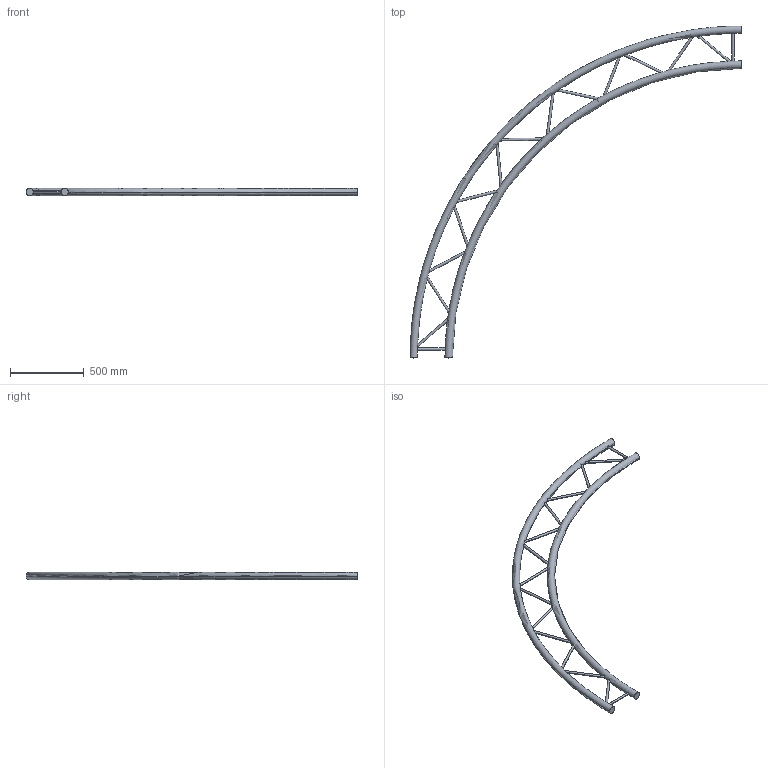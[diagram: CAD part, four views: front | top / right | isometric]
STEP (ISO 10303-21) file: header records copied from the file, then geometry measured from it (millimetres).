
FILE_DESCRIPTION (( 'STEP AP203' ), '1' );
FILE_NAME ('EXC29450H.STEP', '2009-10-26T09:35:31', ( 'CEDIA' ), ( 'CEDIA INDUSTRIE' ), 'SwSTEP 2.0', 'SolidWorks 2009', '' );
FILE_SCHEMA (( 'CONFIG_CONTROL_DESIGN' ));
Length unit declared in the file: millimetre
Products named in the file (1): EXC29450H
Bounding box: 2250 x 2250 x 50 mm (x, y, z)
Volume: 13773927.4 mm3; surface area: 1234625.6 mm2
Topology: 1 solids, 1 shells, 38 faces, 132 edges, 68 vertices
Faces by surface type: cylinder 30, torus 4, plane 4
Entity records: 4120 total; most frequent: CARTESIAN_POINT 2988, ORIENTED_EDGE 264, DIRECTION 192, EDGE_CURVE 132, AXIS2_PLACEMENT_3D 81, VERTEX_POINT 68, B_SPLINE_CURVE_WITH_KNOTS 60, CIRCLE 42
